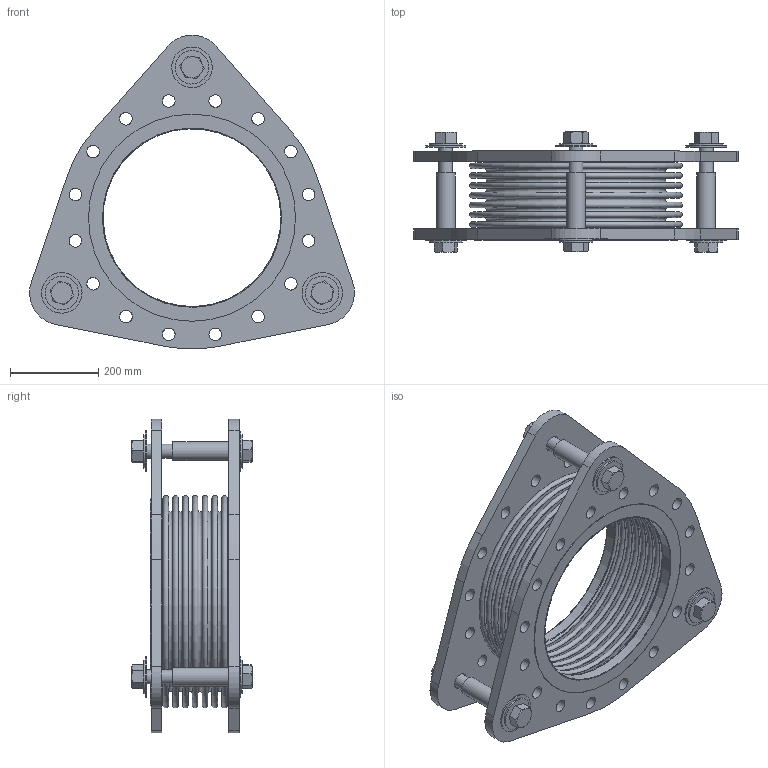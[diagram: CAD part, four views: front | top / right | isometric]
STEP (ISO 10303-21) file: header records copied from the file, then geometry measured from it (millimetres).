
FILE_DESCRIPTION(/* description */ (''),/* implementation_level */ '2;1');
FILE_NAME(/* name */ 'C:\001_Work\Designs\RFB\RFB-16x8.stp',/* time_stamp */ '2016-04-28T18:43:47-04:00',/* author */ ('rramoutar'),/* organization */ ('Mason Industries Inc.'),/* preprocessor_version */ 'ST-DEVELOPER v15.6',/* originating_system */ 'Autodesk Inventor 2015',/* authorisation */ '');
FILE_SCHEMA (('CONFIG_CONTROL_DESIGN'));
Length unit declared in the file: inch
Products named in the file (1): 16in_RFB_150FLANGE
Bounding box: 737.21 x 273.05 x 712.14 mm (x, y, z)
Volume: 12756652.2 mm3; surface area: 3304126.6 mm2
Topology: 24 solids, 24 shells, 313 faces, 679 edges, 447 vertices
Faces by surface type: plane 129, cylinder 94, cone 60, torus 30
Full cylindrical faces by diameter (mm): 27.813 x3, 28.575 x32, 31.75 x9, 34.925 x6, 35.052 x3, 36.512 x6, 42.164 x3, 76.2 x6, 92.075 x6, 403.225 x2, 406.4 x4, 469.9 x2
Entity records: 8122 total; most frequent: CARTESIAN_POINT 1444, DIRECTION 1338, ORIENTED_EDGE 1028, AXIS2_PLACEMENT_3D 618, EDGE_LOOP 582, EDGE_CURVE 514, VERTEX_POINT 400, STYLED_ITEM 337
